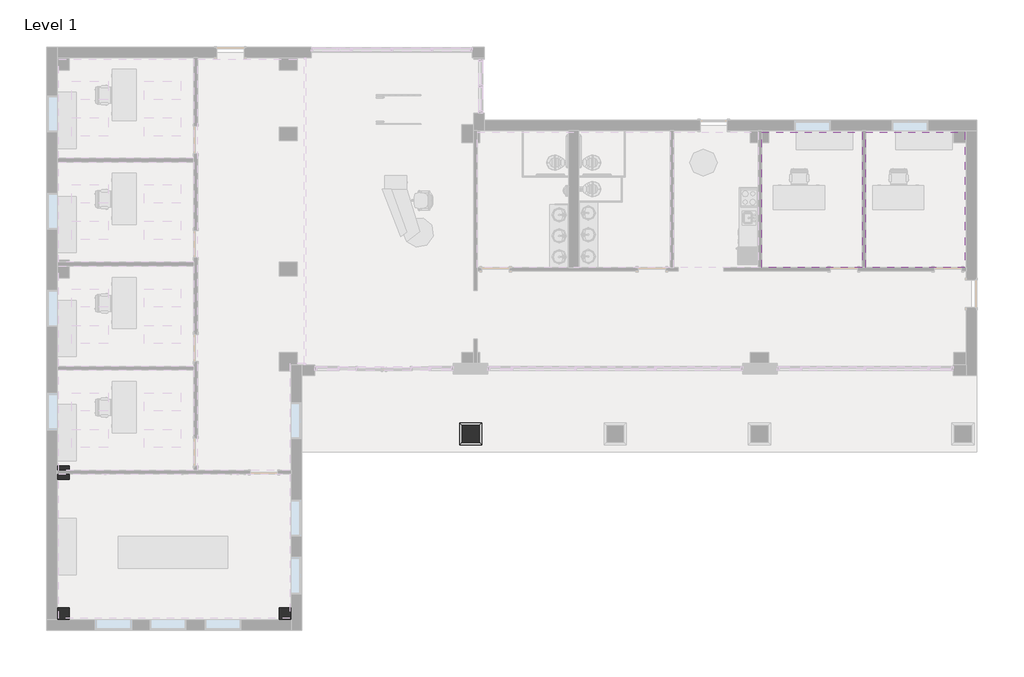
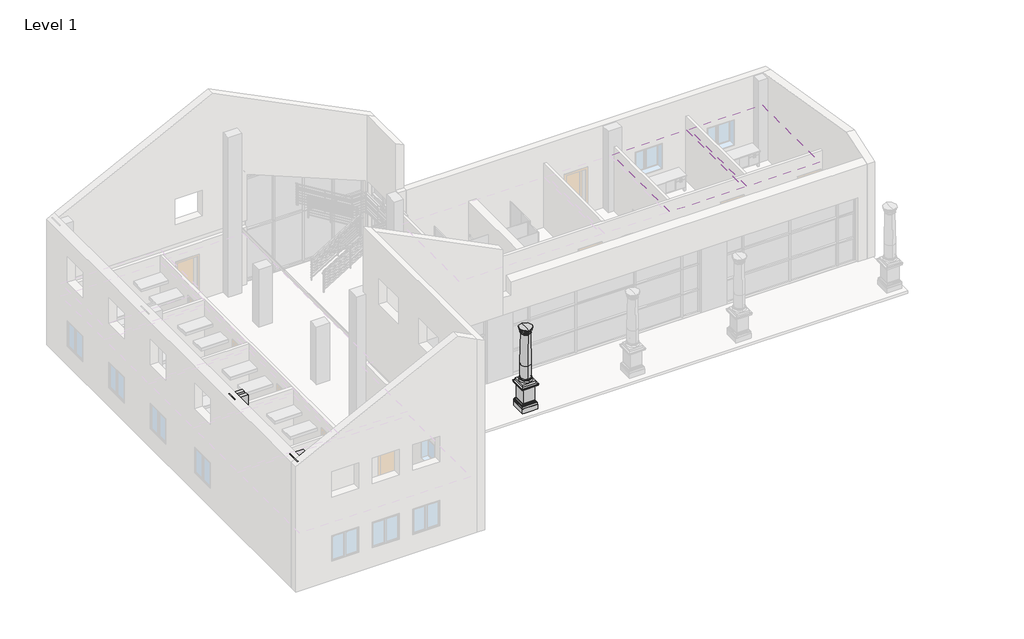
# One storey, part 4 of 8: 4 columns, 2 coverings.
"""IFC4 building model written with IfcOpenShell, lengths in millimetres."""

from ifc_helpers import new_model, si_unit, point, frame, origin, place, context, project, spatial, polyline, circle_curve, ellipse_curve, trimmed, outline, extrude, faceted_brep, element, save
from ifc_brep_helpers import plane_surface, cylinder_surface, revolved_surface, advanced_brep

model = new_model("IFC4")

# Units and contexts
model_context = context("Model", 3, world=origin())
ifc_project = project(units=[si_unit("LENGTHUNIT", "METRE", prefix="MILLI")], contexts=[model_context])

# Site, building, storey
site = spatial("IfcSite", under=ifc_project)
building = spatial("IfcBuilding", under=site)
storey = spatial("IfcBuildingStorey", under=building, Name="Level 1", Elevation=0.0)

# Columns
placement = place(None, origin())
element("IfcColumn", 1, ObjectType="Doric Column : 16'  Height (10 2/3 x Dia.)", at=placement, inside=storey, context=model_context, shape_type="SolidModel", body=[
    extrude(outline(polyline([(529.1733448, -1720.0769576), (529.1733448, -2297.9269576), (-48.6766552, -2297.9269576), (-48.6766552, -1720.0769576), (529.1733448, -1720.0769576)])), frame((0.0, 0.0, 1117.6), z_axis=(0.0, 0.0, 1.0), x_axis=(1.0, 0.0, 0.0)), (0.0, 0.0, 1.0), 107.95),
    faceted_brep([(11.6483448, -2237.6019576, 1117.6), (-131.2266552, -2380.4769576, 1117.6), (611.7233448, -2380.4769576, 1117.6), (468.8483448, -2237.6019576, 1117.6), (11.6483448, -2237.6019576, 1003.3), (468.8483448, -2237.6019576, 1003.3), (-59.6345723, -2308.8848746, 1003.3), (540.1312619, -2308.8848746, 1003.3), (-93.1266552, -2342.3769576, 1028.7), (573.6233448, -2342.3769576, 1028.7), (-118.5266552, -2367.7769576, 1028.7), (599.0233448, -2367.7769576, 1028.7), (-118.5266552, -2367.7769576, 1092.2), (599.0233448, -2367.7769576, 1092.2), (-131.2266552, -2380.4769576, 1092.2), (611.7233448, -2380.4769576, 1092.2), (611.7233448, -1637.5269576, 1117.6), (468.8483448, -1780.4019576, 1117.6), (468.8483448, -1780.4019576, 1003.3), (540.1312619, -1709.1190405, 1003.3), (573.6233448, -1675.6269576, 1028.7), (599.0233448, -1650.2269576, 1028.7), (599.0233448, -1650.2269576, 1092.2), (611.7233448, -1637.5269576, 1092.2), (-131.2266552, -1637.5269576, 1117.6), (11.6483448, -1780.4019576, 1117.6), (11.6483448, -1780.4019576, 1003.3), (-59.6345723, -1709.1190405, 1003.3), (-93.1266552, -1675.6269576, 1028.7), (-118.5266552, -1650.2269576, 1028.7), (-118.5266552, -1650.2269576, 1092.2), (-131.2266552, -1637.5269576, 1092.2)], [[[0, 1, 2, 3]], [[4, 0, 3, 5]], [[6, 4, 5, 7]], [[8, 6, 7, 9]], [[10, 8, 9, 11]], [[12, 10, 11, 13]], [[14, 12, 13, 15]], [[1, 14, 15, 2]], [[3, 2, 16, 17]], [[5, 3, 17, 18]], [[7, 5, 18, 19]], [[9, 7, 19, 20]], [[11, 9, 20, 21]], [[13, 11, 21, 22]], [[15, 13, 22, 23]], [[2, 15, 23, 16]], [[17, 16, 24, 25]], [[18, 17, 25, 26]], [[19, 18, 26, 27]], [[20, 19, 27, 28]], [[21, 20, 28, 29]], [[22, 21, 29, 30]], [[23, 22, 30, 31]], [[16, 23, 31, 24]], [[25, 24, 1, 0]], [[26, 25, 0, 4]], [[27, 26, 4, 6]], [[28, 27, 6, 8]], [[29, 28, 8, 10]], [[30, 29, 10, 12]], [[31, 30, 12, 14]], [[24, 31, 14, 1]]]),
    advanced_brep(
    [(240.2483448, -2256.6519576, 1358.9), (240.2483448, -1761.3519576, 1358.9), (240.2483448, -1780.4019576, 1377.95), (240.2483448, -2237.6019576, 1377.95), (240.2483448, -1780.4019576, 1989.5041667), (240.2483448, -2237.6019576, 1989.5041667), (240.2483448, -2256.6519576, 1339.85), (240.2483448, -1761.3519576, 1339.85), (240.2483448, -2256.6519576, 1308.1), (240.2483448, -1761.3519576, 1308.1), (240.2483448, -2256.6519576, 1225.55), (240.2483448, -1761.3519576, 1225.55), (240.2483448, -2009.0019576, 1225.55), (240.2483448, -1808.9769576, 3479.3125), (240.2483448, -2209.0269576, 3479.3125), (240.2483448, -2301.1019576, 3714.2625601), (240.2483448, -1716.9019576, 3714.2625601), (240.2483448, -1716.9019576, 3733.3125), (240.2483448, -2301.1019576, 3733.3125), (240.2483448, -2009.0019576, 3733.3125), (240.2483448, -2282.0518974, 3695.2125), (240.2483448, -1735.9520177, 3695.2125), (240.2483448, -2278.8769576, 3695.2125), (240.2483448, -1739.1269576, 3695.2125), (240.2483448, -2278.8769576, 3644.4125), (240.2483448, -1739.1269576, 3644.4125), (240.2483448, -2272.5269576, 3644.4125), (240.2483448, -1745.4769576, 3644.4125), (240.2483448, -2228.0769576, 3599.9625), (240.2483448, -1789.9269576, 3599.9625), (240.2483448, -2228.0769576, 3580.9125), (240.2483448, -1789.9269576, 3580.9125), (240.2483448, -2209.0269576, 3580.9125), (240.2483448, -1808.9769576, 3580.9125), (240.2483448, -2209.0269576, 3498.3625), (240.2483448, -1808.9769576, 3498.3625), (240.2483448, -2228.0769576, 3498.3625), (240.2483448, -1789.9269576, 3498.3625), (240.2483448, -2228.0769576, 3479.3125), (240.2483448, -1789.9269576, 3479.3125)],
    [
        (0, 1, circle_curve(frame((240.2483448, -2009.0019576, 1358.9), z_axis=(0.0, 0.0, 1.0), x_axis=(0.0, 1.0, 0.0)), 247.65)),
        (1, 2, circle_curve(frame((240.2483448, -1761.3519576, 1377.95), z_axis=(-1.0, 0.0, 0.0), x_axis=(0.0, -1.0, 0.0)), 19.05)),
        (2, 3, circle_curve(frame((240.2483448, -2009.0019576, 1377.95), z_axis=(0.0, 0.0, -1.0), x_axis=(0.0, 1.0, 0.0)), 228.6)),
        (3, 0, circle_curve(frame((240.2483448, -2256.6519576, 1377.95), z_axis=(-1.0, 0.0, 0.0), x_axis=(0.0, 1.0, 0.0)), 19.05)),
        (2, 4),
        (4, 5, circle_curve(frame((240.2483448, -2009.0019576, 1989.5041667), z_axis=(0.0, 0.0, -1.0), x_axis=(0.0, 1.0, 0.0)), 228.6)),
        (5, 3),
        (2, 3, circle_curve(frame((240.2483448, -2009.0019576, 1377.95), z_axis=(0.0, 0.0, 1.0), x_axis=(0.0, 1.0, 0.0)), 228.6)),
        (5, 4, circle_curve(frame((240.2483448, -2009.0019576, 1989.5041667), z_axis=(0.0, 0.0, -1.0), x_axis=(0.0, 1.0, 0.0)), 228.6)),
        (1, 0, circle_curve(frame((240.2483448, -2009.0019576, 1358.9), z_axis=(0.0, 0.0, 1.0), x_axis=(0.0, 1.0, 0.0)), 247.65)),
        (6, 7, circle_curve(frame((240.2483448, -2009.0019576, 1339.85), z_axis=(0.0, 0.0, 1.0), x_axis=(0.0, 1.0, 0.0)), 247.65)),
        (7, 1),
        (0, 6),
        (7, 6, circle_curve(frame((240.2483448, -2009.0019576, 1339.85), z_axis=(0.0, 0.0, 1.0), x_axis=(0.0, 1.0, 0.0)), 247.65)),
        (8, 9, circle_curve(frame((240.2483448, -2009.0019576, 1308.1), z_axis=(0.0, 0.0, 1.0), x_axis=(0.0, 1.0, 0.0)), 247.65)),
        (9, 7, circle_curve(frame((240.2483448, -1761.3519576, 1323.975), z_axis=(1.0, 0.0, 0.0), x_axis=(0.0, -1.0, 0.0)), 15.875)),
        (6, 8, circle_curve(frame((240.2483448, -2256.6519576, 1323.975), z_axis=(1.0, 0.0, 0.0), x_axis=(0.0, 1.0, 0.0)), 15.875)),
        (9, 8, circle_curve(frame((240.2483448, -2009.0019576, 1308.1), z_axis=(0.0, 0.0, 1.0), x_axis=(0.0, 1.0, 0.0)), 247.65)),
        (10, 11, circle_curve(frame((240.2483448, -2009.0019576, 1225.55), z_axis=(0.0, 0.0, 1.0), x_axis=(0.0, 1.0, 0.0)), 247.65)),
        (11, 9, circle_curve(frame((240.2483448, -1761.3519576, 1266.825), z_axis=(1.0, 0.0, 0.0), x_axis=(0.0, -1.0, 0.0)), 41.275)),
        (8, 10, circle_curve(frame((240.2483448, -2256.6519576, 1266.825), z_axis=(1.0, 0.0, 0.0), x_axis=(0.0, 1.0, 0.0)), 41.275)),
        (11, 10, circle_curve(frame((240.2483448, -2009.0019576, 1225.55), z_axis=(0.0, 0.0, 1.0), x_axis=(0.0, 1.0, 0.0)), 247.65)),
        (12, 11),
        (10, 12),
        (4, 13),
        (13, 14, circle_curve(frame((240.2483448, -2009.0019576, 3479.3125), z_axis=(0.0, 0.0, -1.0), x_axis=(0.0, 1.0, 0.0)), 200.025)),
        (14, 5),
        (14, 13, circle_curve(frame((240.2483448, -2009.0019576, 3479.3125), z_axis=(0.0, 0.0, -1.0), x_axis=(0.0, 1.0, 0.0)), 200.025)),
        (15, 16, circle_curve(frame((240.2483448, -2009.0019576, 3714.2625601), z_axis=(0.0, 0.0, 1.0), x_axis=(0.0, 1.0, 0.0)), 292.1)),
        (16, 17),
        (17, 18, circle_curve(frame((240.2483448, -2009.0019576, 3733.3125), z_axis=(0.0, 0.0, -1.0), x_axis=(0.0, 1.0, 0.0)), 292.1)),
        (18, 15),
        (17, 19),
        (19, 18),
        (17, 18, circle_curve(frame((240.2483448, -2009.0019576, 3733.3125), z_axis=(0.0, 0.0, 1.0), x_axis=(0.0, 1.0, 0.0)), 292.1)),
        (16, 15, circle_curve(frame((240.2483448, -2009.0019576, 3714.2625601), z_axis=(0.0, 0.0, 1.0), x_axis=(0.0, 1.0, 0.0)), 292.1)),
        (20, 21, circle_curve(frame((240.2483448, -2009.0019576, 3695.2125), z_axis=(0.0, 0.0, 1.0), x_axis=(0.0, 1.0, 0.0)), 273.0499399)),
        (21, 16, circle_curve(frame((240.2483448, -1716.9019576, 3695.2125), z_axis=(-1.0, 0.0, 0.0), x_axis=(0.0, -1.0, 0.0)), 19.0500601)),
        (15, 20, circle_curve(frame((240.2483448, -2301.1019576, 3695.2125), z_axis=(-1.0, 0.0, 0.0), x_axis=(0.0, 1.0, 0.0)), 19.0500601)),
        (21, 20, circle_curve(frame((240.2483448, -2009.0019576, 3695.2125), z_axis=(0.0, 0.0, 1.0), x_axis=(0.0, 1.0, 0.0)), 273.0499399)),
        (22, 23, circle_curve(frame((240.2483448, -2009.0019576, 3695.2125), z_axis=(0.0, 0.0, 1.0), x_axis=(0.0, 1.0, 0.0)), 269.875)),
        (23, 21),
        (20, 22),
        (23, 22, circle_curve(frame((240.2483448, -2009.0019576, 3695.2125), z_axis=(0.0, 0.0, 1.0), x_axis=(0.0, 1.0, 0.0)), 269.875)),
        (24, 25, circle_curve(frame((240.2483448, -2009.0019576, 3644.4125), z_axis=(0.0, 0.0, 1.0), x_axis=(0.0, 1.0, 0.0)), 269.875)),
        (25, 23),
        (22, 24),
        (25, 24, circle_curve(frame((240.2483448, -2009.0019576, 3644.4125), z_axis=(0.0, 0.0, 1.0), x_axis=(0.0, 1.0, 0.0)), 269.875)),
        (26, 27, circle_curve(frame((240.2483448, -2009.0019576, 3644.4125), z_axis=(0.0, 0.0, 1.0), x_axis=(0.0, 1.0, 0.0)), 263.525)),
        (27, 25),
        (24, 26),
        (27, 26, circle_curve(frame((240.2483448, -2009.0019576, 3644.4125), z_axis=(0.0, 0.0, 1.0), x_axis=(0.0, 1.0, 0.0)), 263.525)),
        (28, 29, circle_curve(frame((240.2483448, -2009.0019576, 3599.9625), z_axis=(0.0, 0.0, 1.0), x_axis=(0.0, 1.0, 0.0)), 219.075)),
        (29, 27, circle_curve(frame((240.2483448, -1789.9269576, 3644.4125), z_axis=(1.0, 0.0, 0.0), x_axis=(0.0, -1.0, 0.0)), 44.45)),
        (26, 28, circle_curve(frame((240.2483448, -2228.0769576, 3644.4125), z_axis=(1.0, 0.0, 0.0), x_axis=(0.0, 1.0, 0.0)), 44.45)),
        (29, 28, circle_curve(frame((240.2483448, -2009.0019576, 3599.9625), z_axis=(0.0, 0.0, 1.0), x_axis=(0.0, 1.0, 0.0)), 219.075)),
        (30, 31, circle_curve(frame((240.2483448, -2009.0019576, 3580.9125), z_axis=(0.0, 0.0, 1.0), x_axis=(0.0, 1.0, 0.0)), 219.075)),
        (31, 29, circle_curve(frame((240.2483448, -1789.9269576, 3590.4375), z_axis=(1.0, 0.0, 0.0), x_axis=(0.0, -1.0, 0.0)), 9.525)),
        (28, 30, circle_curve(frame((240.2483448, -2228.0769576, 3590.4375), z_axis=(1.0, 0.0, 0.0), x_axis=(0.0, 1.0, 0.0)), 9.525)),
        (31, 30, circle_curve(frame((240.2483448, -2009.0019576, 3580.9125), z_axis=(0.0, 0.0, 1.0), x_axis=(0.0, 1.0, 0.0)), 219.075)),
        (32, 33, circle_curve(frame((240.2483448, -2009.0019576, 3580.9125), z_axis=(0.0, 0.0, 1.0), x_axis=(0.0, 1.0, 0.0)), 200.025)),
        (33, 31),
        (30, 32),
        (33, 32, circle_curve(frame((240.2483448, -2009.0019576, 3580.9125), z_axis=(0.0, 0.0, 1.0), x_axis=(0.0, 1.0, 0.0)), 200.025)),
        (34, 35, circle_curve(frame((240.2483448, -2009.0019576, 3498.3625), z_axis=(0.0, 0.0, 1.0), x_axis=(0.0, 1.0, 0.0)), 200.025)),
        (35, 33),
        (32, 34),
        (35, 34, circle_curve(frame((240.2483448, -2009.0019576, 3498.3625), z_axis=(0.0, 0.0, 1.0), x_axis=(0.0, 1.0, 0.0)), 200.025)),
        (36, 37, circle_curve(frame((240.2483448, -2009.0019576, 3498.3625), z_axis=(0.0, 0.0, 1.0), x_axis=(0.0, 1.0, 0.0)), 219.075)),
        (37, 35),
        (34, 36),
        (37, 36, circle_curve(frame((240.2483448, -2009.0019576, 3498.3625), z_axis=(0.0, 0.0, 1.0), x_axis=(0.0, 1.0, 0.0)), 219.075)),
        (38, 39, circle_curve(frame((240.2483448, -2009.0019576, 3479.3125), z_axis=(0.0, 0.0, 1.0), x_axis=(0.0, 1.0, 0.0)), 219.075)),
        (39, 37, circle_curve(frame((240.2483448, -1789.9269576, 3488.8375), z_axis=(1.0, 0.0, 0.0), x_axis=(0.0, -1.0, 0.0)), 9.525)),
        (36, 38, circle_curve(frame((240.2483448, -2228.0769576, 3488.8375), z_axis=(1.0, 0.0, 0.0), x_axis=(0.0, 1.0, 0.0)), 9.525)),
        (39, 38, circle_curve(frame((240.2483448, -2009.0019576, 3479.3125), z_axis=(0.0, 0.0, 1.0), x_axis=(0.0, 1.0, 0.0)), 219.075)),
        (13, 39),
        (38, 14),
    ],
    [
        revolved_surface(trimmed(ellipse_curve(frame((240.2483448, -1761.3519576, 1377.95), z_axis=(1.0, 0.0, 0.0), x_axis=(0.0, -1.0, 0.0)), 19.05, 19.05), [point((240.2483448, -1780.4019576, 1377.95))], [point((240.2483448, -1761.3519576, 1358.9))], True, "CARTESIAN"), (240.2483448, -2009.0019576, 3733.3125), (0.0, 0.0, -1.0)),
        cylinder_surface(frame((240.2483448, -2009.0019576, 3733.3125), z_axis=(0.0, 0.0, -1.0), x_axis=(0.0, 1.0, 0.0)), 228.6),
        cylinder_surface(frame((240.2483448, -2009.0019576, 3733.3125), z_axis=(0.0, 0.0, -1.0), x_axis=(0.0, 1.0, 0.0)), 247.65),
        revolved_surface(trimmed(ellipse_curve(frame((240.2483448, -1761.3519576, 1323.975), z_axis=(-1.0, 0.0, 0.0), x_axis=(0.0, -1.0, 0.0)), 15.875, 15.875), [point((240.2483448, -1761.3519576, 1339.85))], [point((240.2483448, -1761.3519576, 1308.1))], True, "CARTESIAN"), (240.2483448, -2009.0019576, 3733.3125), (0.0, 0.0, -1.0)),
        revolved_surface(trimmed(ellipse_curve(frame((240.2483448, -1761.3519576, 1266.825), z_axis=(-1.0, 0.0, 0.0), x_axis=(0.0, -1.0, 0.0)), 41.275, 41.275), [point((240.2483448, -1761.3519576, 1308.1))], [point((240.2483448, -1761.3519576, 1225.55))], True, "CARTESIAN"), (240.2483448, -2009.0019576, 3733.3125), (0.0, 0.0, -1.0)),
        plane_surface(frame((240.2483448, -2009.0019576, 1225.55), z_axis=(0.0, 0.0, -1.0), x_axis=(0.0, 1.0, 0.0))),
        revolved_surface(polyline([(240.2483448, -1808.9769576, 3479.3125), (240.2483448, -1780.4019576, 1989.5041667)]), (240.2483448, -2009.0019576, 3733.3125), (0.0, 0.0, -1.0)),
        cylinder_surface(frame((240.2483448, -2009.0019576, 3733.3125), z_axis=(0.0, 0.0, -1.0), x_axis=(0.0, 1.0, 0.0)), 292.1),
        plane_surface(frame((240.2483448, -2009.0019576, 3733.3125), z_axis=(0.0, 0.0, 1.0), x_axis=(0.0, 1.0, 0.0))),
        revolved_surface(trimmed(ellipse_curve(frame((240.2483448, -1716.9019576, 3695.2125), z_axis=(1.0, 0.0, 0.0), x_axis=(0.0, -1.0, 0.0)), 19.0500601, 19.0500601), [point((240.2483448, -1716.9019576, 3714.2625601))], [point((240.2483448, -1735.9520177, 3695.2125))], True, "CARTESIAN"), (240.2483448, -2009.0019576, 3733.3125), (0.0, 0.0, -1.0)),
        plane_surface(frame((240.2483448, -2009.0019576, 3695.2125), z_axis=(0.0, 0.0, -1.0), x_axis=(0.0, 1.0, 0.0))),
        cylinder_surface(frame((240.2483448, -2009.0019576, 3733.3125), z_axis=(0.0, 0.0, -1.0), x_axis=(0.0, 1.0, 0.0)), 269.875),
        plane_surface(frame((240.2483448, -2009.0019576, 3644.4125), z_axis=(0.0, 0.0, -1.0), x_axis=(0.0, 1.0, 0.0))),
        revolved_surface(trimmed(ellipse_curve(frame((240.2483448, -1789.9269576, 3644.4125), z_axis=(-1.0, 0.0, 0.0), x_axis=(0.0, -1.0, 0.0)), 44.45, 44.45), [point((240.2483448, -1745.4769576, 3644.4125))], [point((240.2483448, -1789.9269576, 3599.9625))], True, "CARTESIAN"), (240.2483448, -2009.0019576, 3733.3125), (0.0, 0.0, -1.0)),
        revolved_surface(trimmed(ellipse_curve(frame((240.2483448, -1789.9269576, 3590.4375), z_axis=(-1.0, 0.0, 0.0), x_axis=(0.0, -1.0, 0.0)), 9.525, 9.525), [point((240.2483448, -1789.9269576, 3599.9625))], [point((240.2483448, -1789.9269576, 3580.9125))], True, "CARTESIAN"), (240.2483448, -2009.0019576, 3733.3125), (0.0, 0.0, -1.0)),
        plane_surface(frame((240.2483448, -2009.0019576, 3580.9125), z_axis=(0.0, 0.0, -1.0), x_axis=(0.0, 1.0, 0.0))),
        cylinder_surface(frame((240.2483448, -2009.0019576, 3733.3125), z_axis=(0.0, 0.0, -1.0), x_axis=(0.0, 1.0, 0.0)), 200.025),
        plane_surface(frame((240.2483448, -2009.0019576, 3498.3625), z_axis=(0.0, 0.0, 1.0), x_axis=(0.0, 1.0, 0.0))),
        revolved_surface(trimmed(ellipse_curve(frame((240.2483448, -1789.9269576, 3488.8375), z_axis=(-1.0, 0.0, 0.0), x_axis=(0.0, -1.0, 0.0)), 9.525, 9.525), [point((240.2483448, -1789.9269576, 3498.3625))], [point((240.2483448, -1789.9269576, 3479.3125))], True, "CARTESIAN"), (240.2483448, -2009.0019576, 3733.3125), (0.0, 0.0, -1.0)),
        plane_surface(frame((240.2483448, -2009.0019576, 3479.3125), z_axis=(0.0, 0.0, -1.0), x_axis=(0.0, 1.0, 0.0))),
    ],
    [
        (0, [[1, 2, 3, 4]]),
        (1, [[-3, 5, 6, 7]]),
        (1, [[8, -7, 9, -5]]),
        (0, [[10, -4, -8, -2]]),
        (2, [[11, 12, -1, 13]]),
        (2, [[14, -13, -10, -12]]),
        (3, [[15, 16, -11, 17]]),
        (3, [[18, -17, -14, -16]]),
        (4, [[19, 20, -15, 21]]),
        (4, [[22, -21, -18, -20]]),
        (5, [[23, -19, 24]]),
        (5, [[-24, -22, -23]]),
        (6, [[-6, 25, 26, 27]]),
        (6, [[-9, -27, 28, -25]]),
        (7, [[29, 30, 31, 32]]),
        (8, [[-31, 33, 34]]),
        (8, [[35, -34, -33]]),
        (7, [[36, -32, -35, -30]]),
        (9, [[37, 38, -29, 39]]),
        (9, [[40, -39, -36, -38]]),
        (10, [[41, 42, -37, 43]]),
        (10, [[44, -43, -40, -42]]),
        (11, [[45, 46, -41, 47]]),
        (11, [[48, -47, -44, -46]]),
        (12, [[49, 50, -45, 51]]),
        (12, [[52, -51, -48, -50]]),
        (13, [[53, 54, -49, 55]]),
        (13, [[56, -55, -52, -54]]),
        (14, [[57, 58, -53, 59]]),
        (14, [[60, -59, -56, -58]]),
        (15, [[61, 62, -57, 63]]),
        (15, [[64, -63, -60, -62]]),
        (16, [[65, 66, -61, 67]]),
        (16, [[68, -67, -64, -66]]),
        (17, [[69, 70, -65, 71]]),
        (17, [[72, -71, -68, -70]]),
        (18, [[73, 74, -69, 75]]),
        (18, [[76, -75, -72, -74]]),
        (19, [[-26, 77, -73, 78]]),
        (19, [[-28, -78, -76, -77]]),
    ],
),
    advanced_brep(
    [(585.6934911, -1663.5568112, -101.6), (585.6934911, -1663.5568112, 127.0), (585.6934911, -2354.4471039, 127.0), (585.6934911, -2354.4471039, -101.6), (468.8483448, -1780.4019576, -101.6), (468.8483448, -2237.6019576, -101.6), (468.8483448, -1780.4019576, 317.5), (468.8483448, -2237.6019576, 317.5), (503.1434911, -1746.1068112, 317.5), (503.1434911, -2271.8971039, 317.5), (522.1934911, -1727.0568112, 298.45), (522.1934911, -2290.9471039, 298.45), (522.1934911, -1727.0568112, 279.4), (522.1934911, -2290.9471039, 279.4), (544.4184911, -1704.8318112, 257.175), (544.4184911, -2313.1721039, 257.175), (566.6434911, -1682.6068112, 234.95), (566.6434911, -2335.3971039, 234.95), (566.6434911, -1682.6068112, 215.9), (566.6434911, -2335.3971039, 215.9), (576.1684911, -1673.0818112, 215.9), (576.1684911, -2344.9221039, 215.9), (576.1684911, -1673.0818112, 127.0), (576.1684911, -2344.9221039, 127.0), (-105.1968015, -2354.4471039, 127.0), (-105.1968015, -2354.4471039, -101.6), (11.6483448, -2237.6019576, -101.6), (11.6483448, -2237.6019576, 317.5), (-22.6468015, -2271.8971039, 317.5), (-41.6968015, -2290.9471039, 298.45), (-41.6968015, -2290.9471039, 279.4), (-63.9218015, -2313.1721039, 257.175), (-86.1468015, -2335.3971039, 234.95), (-86.1468015, -2335.3971039, 215.9), (-95.6718015, -2344.9221039, 215.9), (-95.6718015, -2344.9221039, 127.0), (-105.1968015, -1663.5568112, 127.0), (-105.1968015, -1663.5568112, -101.6), (11.6483448, -1780.4019576, -101.6), (11.6483448, -1780.4019576, 317.5), (-22.6468015, -1746.1068112, 317.5), (-41.6968015, -1727.0568112, 298.45), (-41.6968015, -1727.0568112, 279.4), (-63.9218015, -1704.8318112, 257.175), (-86.1468015, -1682.6068112, 234.95), (-86.1468015, -1682.6068112, 215.9), (-95.6718015, -1673.0818112, 215.9), (-95.6718015, -1673.0818112, 127.0)],
    [
        (0, 1),
        (1, 2),
        (2, 3),
        (3, 0),
        (4, 0),
        (3, 5),
        (5, 4),
        (6, 4),
        (5, 7),
        (7, 6),
        (8, 6),
        (7, 9),
        (9, 8),
        (10, 8, ellipse_curve(frame((522.1934911, -1727.0568112, 317.5), z_axis=(-0.7071067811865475, 0.7071067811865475, 0.0), x_axis=(-0.7071067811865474, -0.7071067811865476, 0.0)), 26.9407684, 19.05)),
        (9, 11, ellipse_curve(frame((522.1934911, -2290.9471039, 317.5), z_axis=(-0.7071067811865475, -0.7071067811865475, 0.0), x_axis=(0.7071067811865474, -0.7071067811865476, 0.0)), 26.9407684, 19.05)),
        (11, 10),
        (12, 10),
        (11, 13),
        (13, 12),
        (14, 12, ellipse_curve(frame((522.1934911, -1727.0568112, 257.175), z_axis=(0.7071067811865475, -0.7071067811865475, 0.0), x_axis=(0.7071067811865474, 0.7071067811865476, 0.0)), 31.4308964, 22.225)),
        (13, 15, ellipse_curve(frame((522.1934911, -2290.9471039, 257.175), z_axis=(0.7071067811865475, 0.7071067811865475, 0.0), x_axis=(-0.7071067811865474, 0.7071067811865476, 0.0)), 31.4308964, 22.225)),
        (15, 14),
        (16, 14, ellipse_curve(frame((566.6434911, -1682.6068112, 257.175), z_axis=(-0.7071067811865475, 0.7071067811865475, 0.0), x_axis=(-0.7071067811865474, -0.7071067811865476, 0.0)), 31.4308964, 22.225)),
        (15, 17, ellipse_curve(frame((566.6434911, -2335.3971039, 257.175), z_axis=(-0.7071067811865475, -0.7071067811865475, 0.0), x_axis=(0.7071067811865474, -0.7071067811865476, 0.0)), 31.4308964, 22.225)),
        (17, 16),
        (18, 16),
        (17, 19),
        (19, 18),
        (20, 18),
        (19, 21),
        (21, 20),
        (22, 20),
        (21, 23),
        (23, 22),
        (1, 22),
        (23, 2),
        (2, 24),
        (24, 25),
        (25, 3),
        (25, 26),
        (26, 5),
        (26, 27),
        (27, 7),
        (27, 28),
        (28, 9),
        (28, 29, ellipse_curve(frame((-41.6968015, -2290.9471039, 317.5), z_axis=(-0.7071067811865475, 0.7071067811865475, 0.0), x_axis=(-0.7071067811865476, -0.7071067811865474, 0.0)), 26.9407684, 19.05)),
        (29, 11),
        (29, 30),
        (30, 13),
        (30, 31, ellipse_curve(frame((-41.6968015, -2290.9471039, 257.175), z_axis=(0.7071067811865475, -0.7071067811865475, 0.0), x_axis=(0.7071067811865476, 0.7071067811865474, 0.0)), 31.4308964, 22.225)),
        (31, 15),
        (31, 32, ellipse_curve(frame((-86.1468015, -2335.3971039, 257.175), z_axis=(-0.7071067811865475, 0.7071067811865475, 0.0), x_axis=(-0.7071067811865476, -0.7071067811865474, 0.0)), 31.4308964, 22.225)),
        (32, 17),
        (32, 33),
        (33, 19),
        (33, 34),
        (34, 21),
        (34, 35),
        (35, 23),
        (35, 24),
        (24, 36),
        (36, 37),
        (37, 25),
        (37, 38),
        (38, 26),
        (38, 39),
        (39, 27),
        (39, 40),
        (40, 28),
        (40, 41, ellipse_curve(frame((-41.6968015, -1727.0568112, 317.5), z_axis=(0.7071067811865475, 0.7071067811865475, 0.0), x_axis=(-0.7071067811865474, 0.7071067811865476, 0.0)), 26.9407684, 19.05)),
        (41, 29),
        (41, 42),
        (42, 30),
        (42, 43, ellipse_curve(frame((-41.6968015, -1727.0568112, 257.175), z_axis=(-0.7071067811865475, -0.7071067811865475, 0.0), x_axis=(0.7071067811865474, -0.7071067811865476, 0.0)), 31.4308964, 22.225)),
        (43, 31),
        (43, 44, ellipse_curve(frame((-86.1468015, -1682.6068112, 257.175), z_axis=(0.7071067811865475, 0.7071067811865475, 0.0), x_axis=(-0.7071067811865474, 0.7071067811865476, 0.0)), 31.4308964, 22.225)),
        (44, 32),
        (44, 45),
        (45, 33),
        (45, 46),
        (46, 34),
        (46, 47),
        (47, 35),
        (47, 36),
        (36, 1),
        (0, 37),
        (4, 38),
        (6, 39),
        (8, 40),
        (10, 41),
        (12, 42),
        (14, 43),
        (16, 44),
        (18, 45),
        (20, 46),
        (22, 47),
    ],
    [
        plane_surface(frame((585.6934911, -1663.5568112, 127.0), z_axis=(1.0, 0.0, 0.0), x_axis=(0.0, -1.0, 0.0))),
        plane_surface(frame((585.6934911, -1663.5568112, -101.6), z_axis=(0.0, 0.0, -1.0), x_axis=(0.0, -1.0, 0.0))),
        plane_surface(frame((468.8483448, -1780.4019576, -101.6), z_axis=(-1.0, 0.0, 0.0), x_axis=(0.0, -1.0, 0.0))),
        plane_surface(frame((468.8483448, -1780.4019576, 317.5), z_axis=(0.0, 0.0, 1.0), x_axis=(0.0, -1.0, 0.0))),
        revolved_surface(polyline([(541.2434910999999, -2309.9971039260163, 317.5), (541.2434910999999, -1708.0068111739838, 317.5)]), (522.1934911, -1650.5418844, 317.5), (0.0, -1.0, 0.0)),
        plane_surface(frame((522.1934911, -1727.0568112, 298.45), z_axis=(1.0, 0.0, 0.0), x_axis=(0.0, -1.0, 0.0))),
        cylinder_surface(frame((522.1934911, -1650.5418844, 257.175), z_axis=(0.0, 1.0, 0.0), x_axis=(1.0, 0.0, 0.0)), 22.225),
        revolved_surface(polyline([(588.8684911, -2357.622103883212, 257.175), (588.8684911, -1660.3818112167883, 257.175)]), (566.6434911, -1650.5418844, 257.175), (0.0, -1.0, 0.0)),
        plane_surface(frame((566.6434911, -1682.6068112, 234.95), z_axis=(1.0, 0.0, 0.0), x_axis=(0.0, -1.0, 0.0))),
        plane_surface(frame((566.6434911, -1682.6068112, 215.9), z_axis=(0.0, 0.0, 1.0), x_axis=(0.0, -1.0, 0.0))),
        plane_surface(frame((576.1684911, -1673.0818112, 215.9), z_axis=(1.0, 0.0, 0.0), x_axis=(0.0, -1.0, 0.0))),
        plane_surface(frame((576.1684911, -1673.0818112, 127.0), z_axis=(0.0, 0.0, 1.0), x_axis=(0.0, -1.0, 0.0))),
        plane_surface(frame((585.6934911, -2354.4471039, 127.0), z_axis=(0.0, -1.0, 0.0), x_axis=(-1.0, 0.0, 0.0))),
        plane_surface(frame((585.6934911, -2354.4471039, -101.6), z_axis=(0.0, 0.0, -1.0), x_axis=(-1.0, 0.0, 0.0))),
        plane_surface(frame((468.8483448, -2237.6019576, -101.6), z_axis=(0.0, 1.0, 0.0), x_axis=(-1.0, 0.0, 0.0))),
        plane_surface(frame((468.8483448, -2237.6019576, 317.5), z_axis=(0.0, 0.0, 1.0), x_axis=(-1.0, 0.0, 0.0))),
        revolved_surface(polyline([(-60.74680152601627, -2309.9971039, 317.5), (541.2434911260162, -2309.9971039, 317.5)]), (598.708418, -2290.9471039, 317.5), (-1.0, 0.0, 0.0)),
        plane_surface(frame((522.1934911, -2290.9471039, 298.45), z_axis=(0.0, -1.0, 0.0), x_axis=(-1.0, 0.0, 0.0))),
        cylinder_surface(frame((598.708418, -2290.9471039, 257.175), z_axis=(1.0, 0.0, 0.0), x_axis=(0.0, -1.0, 0.0)), 22.225),
        revolved_surface(polyline([(-108.37180148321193, -2357.6221038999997, 257.175), (588.8684910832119, -2357.6221038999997, 257.175)]), (598.708418, -2335.3971039, 257.175), (-1.0, 0.0, 0.0)),
        plane_surface(frame((566.6434911, -2335.3971039, 234.95), z_axis=(0.0, -1.0, 0.0), x_axis=(-1.0, 0.0, 0.0))),
        plane_surface(frame((566.6434911, -2335.3971039, 215.9), z_axis=(0.0, 0.0, 1.0), x_axis=(-1.0, 0.0, 0.0))),
        plane_surface(frame((576.1684911, -2344.9221039, 215.9), z_axis=(0.0, -1.0, 0.0), x_axis=(-1.0, 0.0, 0.0))),
        plane_surface(frame((576.1684911, -2344.9221039, 127.0), z_axis=(0.0, 0.0, 1.0), x_axis=(-1.0, 0.0, 0.0))),
        plane_surface(frame((-105.1968015, -2354.4471039, 127.0), z_axis=(-1.0, 0.0, 0.0), x_axis=(0.0, 1.0, 0.0))),
        plane_surface(frame((-105.1968015, -2354.4471039, -101.6), z_axis=(0.0, 0.0, -1.0), x_axis=(0.0, 1.0, 0.0))),
        plane_surface(frame((11.6483448, -2237.6019576, -101.6), z_axis=(1.0, 0.0, 0.0), x_axis=(0.0, 1.0, 0.0))),
        plane_surface(frame((11.6483448, -2237.6019576, 317.5), z_axis=(0.0, 0.0, 1.0), x_axis=(0.0, 1.0, 0.0))),
        revolved_surface(polyline([(-60.746801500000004, -1708.0068111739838, 317.5), (-60.746801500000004, -2309.9971039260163, 317.5)]), (-41.6968015, -2367.4620307, 317.5), (0.0, 1.0, 0.0)),
        plane_surface(frame((-41.6968015, -2290.9471039, 298.45), z_axis=(-1.0, 0.0, 0.0), x_axis=(0.0, 1.0, 0.0))),
        cylinder_surface(frame((-41.6968015, -2367.4620307, 257.175), z_axis=(0.0, -1.0, 0.0), x_axis=(-1.0, 0.0, 0.0)), 22.225),
        revolved_surface(polyline([(-108.3718015, -1660.3818112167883, 257.175), (-108.3718015, -2357.622103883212, 257.175)]), (-86.1468015, -2367.4620307, 257.175), (0.0, 1.0, 0.0)),
        plane_surface(frame((-86.1468015, -2335.3971039, 234.95), z_axis=(-1.0, 0.0, 0.0), x_axis=(0.0, 1.0, 0.0))),
        plane_surface(frame((-86.1468015, -2335.3971039, 215.9), z_axis=(0.0, 0.0, 1.0), x_axis=(0.0, 1.0, 0.0))),
        plane_surface(frame((-95.6718015, -2344.9221039, 215.9), z_axis=(-1.0, 0.0, 0.0), x_axis=(0.0, 1.0, 0.0))),
        plane_surface(frame((-95.6718015, -2344.9221039, 127.0), z_axis=(0.0, 0.0, 1.0), x_axis=(0.0, 1.0, 0.0))),
        plane_surface(frame((-105.1968015, -1663.5568112, 127.0), z_axis=(0.0, 1.0, 0.0), x_axis=(1.0, 0.0, 0.0))),
        plane_surface(frame((-105.1968015, -1663.5568112, -101.6), z_axis=(0.0, 0.0, -1.0), x_axis=(1.0, 0.0, 0.0))),
        plane_surface(frame((11.6483448, -1780.4019576, -101.6), z_axis=(0.0, -1.0, 0.0), x_axis=(1.0, 0.0, 0.0))),
        plane_surface(frame((11.6483448, -1780.4019576, 317.5), z_axis=(0.0, 0.0, 1.0), x_axis=(1.0, 0.0, 0.0))),
        revolved_surface(polyline([(541.2434911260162, -1708.0068112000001, 317.5), (-60.74680152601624, -1708.0068112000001, 317.5)]), (-118.2117283, -1727.0568112, 317.5), (1.0, 0.0, 0.0)),
        plane_surface(frame((-41.6968015, -1727.0568112, 298.45), z_axis=(0.0, 1.0, 0.0), x_axis=(1.0, 0.0, 0.0))),
        cylinder_surface(frame((-118.2117283, -1727.0568112, 257.175), z_axis=(-1.0, 0.0, 0.0), x_axis=(0.0, 1.0, 0.0)), 22.225),
        revolved_surface(polyline([(588.8684910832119, -1660.3818112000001, 257.175), (-108.37180148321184, -1660.3818112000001, 257.175)]), (-118.2117283, -1682.6068112, 257.175), (1.0, 0.0, 0.0)),
        plane_surface(frame((-86.1468015, -1682.6068112, 234.95), z_axis=(0.0, 1.0, 0.0), x_axis=(1.0, 0.0, 0.0))),
        plane_surface(frame((-86.1468015, -1682.6068112, 215.9), z_axis=(0.0, 0.0, 1.0), x_axis=(1.0, 0.0, 0.0))),
        plane_surface(frame((-95.6718015, -1673.0818112, 215.9), z_axis=(0.0, 1.0, 0.0), x_axis=(1.0, 0.0, 0.0))),
        plane_surface(frame((-95.6718015, -1673.0818112, 127.0), z_axis=(0.0, 0.0, 1.0), x_axis=(1.0, 0.0, 0.0))),
    ],
    [
        (0, [[1, 2, 3, 4]]),
        (1, [[5, -4, 6, 7]]),
        (2, [[8, -7, 9, 10]]),
        (3, [[11, -10, 12, 13]]),
        (4, [[14, -13, 15, 16]]),
        (5, [[17, -16, 18, 19]]),
        (6, [[20, -19, 21, 22]]),
        (7, [[23, -22, 24, 25]]),
        (8, [[26, -25, 27, 28]]),
        (9, [[29, -28, 30, 31]]),
        (10, [[32, -31, 33, 34]]),
        (11, [[35, -34, 36, -2]]),
        (12, [[-3, 37, 38, 39]]),
        (13, [[-6, -39, 40, 41]]),
        (14, [[-9, -41, 42, 43]]),
        (15, [[-12, -43, 44, 45]]),
        (16, [[-15, -45, 46, 47]]),
        (17, [[-18, -47, 48, 49]]),
        (18, [[-21, -49, 50, 51]]),
        (19, [[-24, -51, 52, 53]]),
        (20, [[-27, -53, 54, 55]]),
        (21, [[-30, -55, 56, 57]]),
        (22, [[-33, -57, 58, 59]]),
        (23, [[-36, -59, 60, -37]]),
        (24, [[-38, 61, 62, 63]]),
        (25, [[-40, -63, 64, 65]]),
        (26, [[-42, -65, 66, 67]]),
        (27, [[-44, -67, 68, 69]]),
        (28, [[-46, -69, 70, 71]]),
        (29, [[-48, -71, 72, 73]]),
        (30, [[-50, -73, 74, 75]]),
        (31, [[-52, -75, 76, 77]]),
        (32, [[-54, -77, 78, 79]]),
        (33, [[-56, -79, 80, 81]]),
        (34, [[-58, -81, 82, 83]]),
        (35, [[-60, -83, 84, -61]]),
        (36, [[-62, 85, -1, 86]]),
        (37, [[-64, -86, -5, 87]]),
        (38, [[-66, -87, -8, 88]]),
        (39, [[-68, -88, -11, 89]]),
        (40, [[-70, -89, -14, 90]]),
        (41, [[-72, -90, -17, 91]]),
        (42, [[-74, -91, -20, 92]]),
        (43, [[-76, -92, -23, 93]]),
        (44, [[-78, -93, -26, 94]]),
        (45, [[-80, -94, -29, 95]]),
        (46, [[-82, -95, -32, 96]]),
        (47, [[-84, -96, -35, -85]]),
    ],
),
    extrude(outline(polyline([(503.7733448, -1745.4769576), (503.7733448, -2272.5269576), (-23.2766552, -2272.5269576), (-23.2766552, -1745.4769576), (503.7733448, -1745.4769576)])), frame((0.0, 0.0, 317.5), z_axis=(0.0, 0.0, 1.0), x_axis=(1.0, 0.0, 0.0)), (0.0, 0.0, 1.0), 685.8),
])
element("IfcColumn", 2, ObjectType="Rectangular Column : 18\" x 24\"", at=placement, inside=storey, context=model_context, shape_type="SweptSolid", body=[
    extrude(outline(polyline([(-3077.3894576, 6100.0), (-3077.3894576, 0.0), (-3232.9644576, 0.0), (-3232.9644576, 2755.2), (-3356.7894576, 2755.2), (-3356.7894576, 0.0), (-3534.5894576, 0.0), (-3534.5894576, 6100.0), (-3356.7894576, 6100.0), (-3356.7894576, 3060.0), (-3232.9644576, 3060.0), (-3232.9644576, 6100.0), (-3077.3894576, 6100.0)])), frame((-13583.7016552, 0.0, 0.0), z_axis=(1.0, 0.0, 0.0), x_axis=(0.0, 1.0, 0.0)), (0.0, 0.0, 1.0), 412.75),
    extrude(outline(polyline([(6100.0, -13748.8016552), (6100.0, -13780.5516552), (6084.125, -13780.5516552), (6100.0, -13748.8016552)])), frame((0.0, -3534.5894576, 0.0), z_axis=(0.0, 1.0, 0.0), x_axis=(0.0, 0.0, 1.0)), (0.0, 0.0, 1.0), 457.2),
])
element("IfcColumn", 3, ObjectType="Rectangular Column : 24\" x 24\"", at=placement, inside=storey, context=model_context, shape_type="Brep", body=[
    faceted_brep([(-13170.9516552, -8233.5894576, 6100.0), (-13170.9516552, -7827.1894576, 6100.0), (-13583.7016552, -7827.1894576, 6100.0), (-13583.7016552, -8233.5894576, 6100.0), (-13170.9516552, -7827.1894576, 0.0), (-13170.9516552, -8233.5894576, 0.0), (-13583.7016552, -8233.5894576, 0.0), (-13583.7016552, -7827.1894576, 0.0), (-13583.7016552, -8233.5894576, 3060.0), (-13583.7016552, -8233.5894576, 2755.2)], [[[0, 1, 2, 3]], [[4, 5, 6, 7]], [[1, 4, 7, 2]], [[4, 1, 0, 5]], [[5, 0, 3, 8, 9, 6]], [[3, 2, 7, 6, 9, 8]]]),
    faceted_brep([(-13780.5516552, -8436.7894576, 6100.0), (-13780.5516552, -7827.1894576, 6100.0), (-13780.5516552, -7827.1894576, 6084.125), (-13780.5516552, -8233.5894576, 6084.125), (-13780.5516552, -8436.7894576, 6084.125), (-13748.8016552, -8436.7894576, 6100.0), (-13748.8016552, -8233.5894576, 6100.0), (-13748.8016552, -7827.1894576, 6100.0)], [[[0, 1, 2, 3, 4]], [[5, 0, 4]], [[6, 5, 4, 3]], [[7, 6, 3, 2]], [[1, 0, 5, 6, 7]], [[1, 7, 2]]]),
])
element("IfcColumn", 4, ObjectType="Rectangular Column : 24\" x 24\"", at=placement, inside=storey, context=model_context, shape_type="Brep", body=[
    faceted_brep([(-6160.5516552, -7827.1894576, 6100.0), (-6160.5516552, -8233.5894576, 6100.0), (-5754.1516552, -8233.5894576, 6100.0), (-5754.1516552, -7827.1894576, 6100.0), (-6160.5516552, -8233.5894576, 0.0), (-6160.5516552, -7827.1894576, 0.0), (-5754.1516552, -7827.1894576, 0.0), (-5754.1516552, -8233.5894576, 0.0), (-5754.1516552, -8233.5894576, 2755.2), (-5754.1516552, -8233.5894576, 3060.0)], [[[0, 1, 2, 3]], [[4, 5, 6, 7]], [[5, 0, 3, 6]], [[0, 5, 4, 1]], [[2, 1, 4, 7, 8, 9]], [[3, 2, 9, 8, 7, 6]]]),
])

# Coverings
element("IfcCovering", 5, ObjectType="2' x 4' ACT System", at=placement, inside=storey, context=model_context, shape_type="SweptSolid", body=[
    extrude(outline(polyline([(13324.4233448, 3558.3605424), (9971.6233448, 3558.3605424), (9971.6233448, 8079.5605424), (13324.4233448, 8079.5605424), (13324.4233448, 3558.3605424)])), frame((0.0, 0.0, 2438.4), z_axis=(0.0, 0.0, 1.0), x_axis=(1.0, 0.0, 0.0)), (0.0, 0.0, 1.0), 57.15),
])
element("IfcCovering", 6, ObjectType="2' x 4' ACT System", at=placement, inside=storey, context=model_context, shape_type="SweptSolid", body=[
    extrude(outline(polyline([(16750.2483448, 3558.3605424), (13448.2483448, 3558.3605424), (13448.2483448, 8079.5605424), (16750.2483448, 8079.5605424), (16750.2483448, 3558.3605424)])), frame((0.0, 0.0, 2438.4), z_axis=(0.0, 0.0, 1.0), x_axis=(1.0, 0.0, 0.0)), (0.0, 0.0, 1.0), 57.15),
])

save(model, "model.ifc")
